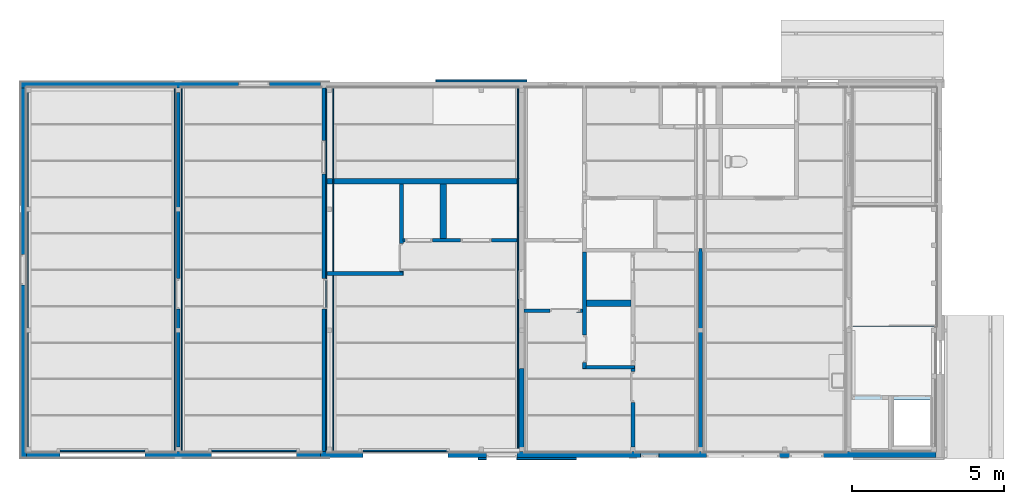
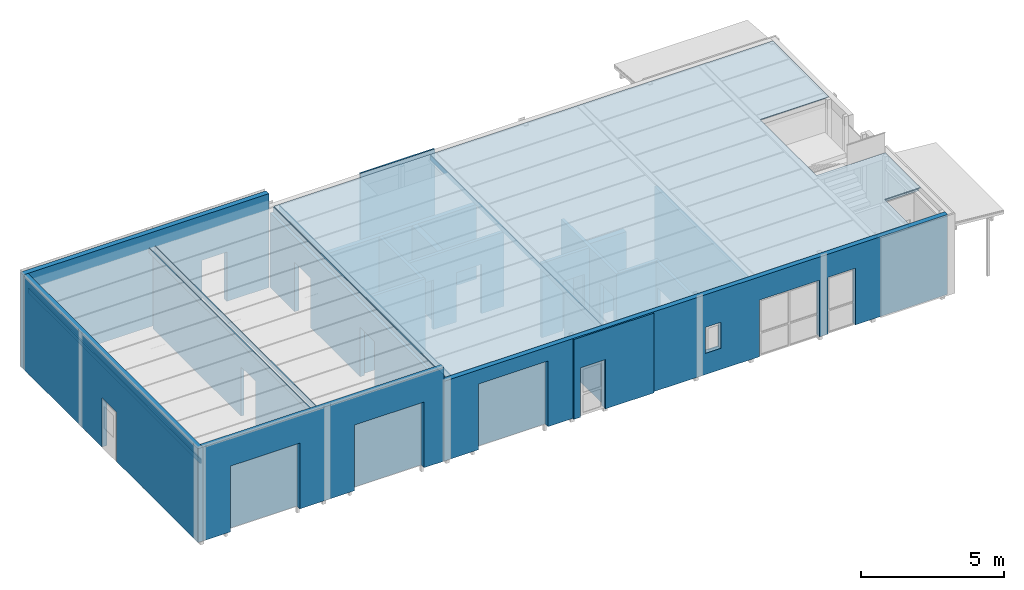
# One storey, part 2 of 45: 29 walls, 2 slabs, 20 openings.
"""IFC2X3 building model written with IfcOpenShell, lengths in millimetres."""

from ifc_helpers import new_model, entity, si_unit, converted_unit, frame, frame_2d, origin, origin_with_axes, place, context, subcontext, project, spatial, polyline, rectangle, outline, extrude, material, layer, layer_set, layer_usage, element, save


model = new_model("IFC2X3")

# Units and contexts
model_context = context("Model", 3, precision=1e-05, world=origin())
plan_context = context("Plan", 3, precision=1e-05, world=origin())
body_context = subcontext(model_context, "Body", "Model", "MODEL_VIEW")
ifc_project = project(units=[si_unit("LENGTHUNIT", "METRE", prefix="MILLI"), converted_unit("PLANEANGLEUNIT", "DEGREE", entity("IfcPlaneAngleMeasure", 0.0174532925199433), si_unit("PLANEANGLEUNIT", "RADIAN"), dimensions=[0, 0, 0, 0, 0, 0, 0]), si_unit("AREAUNIT", "SQUARE_METRE"), si_unit("VOLUMEUNIT", "CUBIC_METRE")], contexts=[model_context, plan_context])

# Building, storey
building_placement = place(None, origin())
building = spatial("IfcBuilding", under=ifc_project, at=building_placement, Name="HEKF Administrasjonbygg", CompositionType="ELEMENT")
storey_placement = place(building_placement, frame((0.0, 0.0, 6500.0), z_axis=(0.0, 0.0, 1.0), x_axis=(1.0, 0.0, 0.0)))
storey = spatial("IfcBuildingStorey", under=building, at=storey_placement, Name="Plan 1", CompositionType="ELEMENT", Elevation=6500.0)

# Slab
ifc_material_1 = material(Name="Betong")
ifc_layer_1 = layer(ifc_material_1, 200.0)
ifc_layer_set_1 = layer_set([ifc_layer_1])
ifc_layer_usage_1 = layer_usage(ifc_layer_set_1, "AXIS3", "POSITIVE", 0.0)
slab_1_placement = place(storey_placement, frame((27260.53680645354, -11999.99999999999, 3170.0), z_axis=(0.0, 0.0, 1.0), x_axis=(1.0, 0.0, 0.0)))
element("IfcSlab", 1, at=slab_1_placement, inside=storey, material=ifc_layer_usage_1, PredefinedType="FLOOR", context=body_context, shape_type="SweptSolid", body=[
    extrude(outline(polyline([(0.0, 4.547473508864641e-11), (1289.463193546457, 0.0), (1289.463193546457, 1849.999999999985), (2739.463193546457, 1849.999999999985), (2739.463193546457, 4149.999999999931), (0.0, 4149.999999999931), (0.0, 4.547473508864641e-11)])), origin_with_axes(), (0.0, 0.0, 1.0), 200.0),
])

# Slab, opening
ifc_material_2 = material(Name="Flyt golv")
ifc_layer_2 = layer(ifc_material_2, 30.0)
ifc_layer_set_2 = layer_set([ifc_layer_2])
ifc_layer_usage_2 = layer_usage(ifc_layer_set_2, "AXIS3", "POSITIVE", 0.0)
slab_2_placement = place(storey_placement, frame((9900.0, -12000.0, 3370.0), z_axis=(0.0, 0.0, 1.0), x_axis=(1.0, 0.0, 0.0)))
slab_2 = element("IfcSlab", 2, at=slab_2_placement, inside=storey, material=ifc_layer_usage_2, PredefinedType="FLOOR", context=body_context, shape_type="SweptSolid", body=[
    extrude(outline(polyline([(20100.0, 1700.000000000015), (20100.0, 12000.0), (0.0, 12000.0), (0.0, 0.0), (18650.0, 0.0), (18650.0, 1700.000000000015), (20100.0, 1700.000000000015)])), origin_with_axes(), (0.0, 0.0, 1.0), 30.0),
])
opening_1_placement = place(slab_2_placement, frame((20175.53680645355, 4149.999999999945, 0.0), z_axis=(0.0, 0.0, 1.0), x_axis=(1.0, 0.0, 0.0)))
element("IfcOpeningElement", 3, at=opening_1_placement, cuts=slab_2, Name="Slab Opening", ObjectType="Opening", context=body_context, shape_type="SweptSolid", body=[
    extrude(rectangle(XDim=3925.000000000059, YDim=2850.0, at=frame_2d((-1425.000000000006, 1962.500000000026), x_axis=(-2.780620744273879e-15, 1.0))), origin_with_axes(), (0.0, 0.0, 1.0), 30.0),
])

# Wall, opening
ifc_material_3 = material(Name="Paroc 200")
ifc_layer_3 = layer(ifc_material_3, 200.0)
ifc_layer_set_3 = layer_set([ifc_layer_3])
ifc_layer_usage_3 = layer_usage(ifc_layer_set_3, "AXIS2", "POSITIVE", 0.0)
wall_1_placement = place(storey_placement, frame((-5.57823417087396e-12, -12200.0, 0.0), z_axis=(0.0, 0.0, 1.0), x_axis=(6.063298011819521e-16, 1.0, 0.0)))
wall_1 = element("IfcWallStandardCase", 4, at=wall_1_placement, inside=storey, material=ifc_layer_usage_3, context=body_context, shape_type="SweptSolid", body=[
    extrude(rectangle(XDim=12200.0, YDim=200.0, at=frame_2d((6100.0, 100.0), x_axis=(1.0, 0.0))), origin_with_axes(), (0.0, 0.0, 1.0), 4000.0),
])
opening_2_placement = place(wall_1_placement, frame((5695.0, 1.211690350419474e-27, 0.0), z_axis=(0.0, 1.0, 0.0), x_axis=(0.0, 0.0, 1.0)))
element("IfcOpeningElement", 5, at=opening_2_placement, cuts=wall_1, Name="D001", ObjectType="Opening", context=body_context, shape_type="SweptSolid", body=[
    extrude(rectangle(XDim=2100.0, YDim=1010.0, at=frame_2d((1050.0, 505.0), x_axis=(1.0, 0.0))), origin_with_axes(), (0.0, 0.0, 1.0), 200.0),
])

ifc_material_4 = material(Name="Paroc 200")
ifc_layer_4 = layer(ifc_material_4, 200.0)
ifc_layer_set_4 = layer_set([ifc_layer_4])
ifc_layer_usage_4 = layer_usage(ifc_layer_set_4, "AXIS2", "POSITIVE", 0.0)
wall_2_placement = place(storey_placement, frame((-199.9999999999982, 0.0, 0.0), z_axis=(0.0, 0.0, 1.0), x_axis=(1.0, 0.0, 0.0)))
wall_2 = element("IfcWallStandardCase", 6, at=wall_2_placement, inside=storey, material=ifc_layer_usage_4, context=body_context, shape_type="SweptSolid", body=[
    extrude(rectangle(XDim=9899.999999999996, YDim=200.0, at=frame_2d((4949.999999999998, 100.0), x_axis=(1.0, 0.0))), origin_with_axes(), (0.0, 0.0, 1.0), 4000.0),
])
opening_3_placement = place(wall_2_placement, frame((7194.999999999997, 0.0, 0.0), z_axis=(0.0, 1.0, 0.0), x_axis=(0.0, 0.0, 1.0)))
element("IfcOpeningElement", 7, at=opening_3_placement, cuts=wall_2, Name="D005", ObjectType="Opening", context=body_context, shape_type="SweptSolid", body=[
    extrude(rectangle(XDim=2100.0, YDim=1010.0, at=frame_2d((1050.0, 505.0), x_axis=(1.0, 0.0))), origin_with_axes(), (0.0, 0.0, 1.0), 200.0),
])

# Wall, openings
ifc_material_5 = material(Name="Paroc 200")
ifc_layer_5 = layer(ifc_material_5, 200.0)
ifc_layer_set_5 = layer_set([ifc_layer_5])
ifc_layer_usage_5 = layer_usage(ifc_layer_set_5, "AXIS2", "POSITIVE", 0.0)
wall_3_placement = place(storey_placement, frame((9699.999999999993, -12000.0, 0.0), z_axis=(0.0, 0.0, 1.0), x_axis=(-1.0, 0.0, 0.0)))
wall_3 = element("IfcWallStandardCase", 8, at=wall_3_placement, inside=storey, material=ifc_layer_usage_5, context=body_context, shape_type="SweptSolid", body=[
    extrude(rectangle(XDim=9699.999999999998, YDim=200.0, at=frame_2d((4849.999999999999, 100.0), x_axis=(1.0, 0.0))), origin_with_axes(), (0.0, 0.0, 1.0), 4000.0),
])
opening_4_placement = place(wall_3_placement, frame((5799.999999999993, 0.0, 0.0), z_axis=(0.0, 1.0, 0.0), x_axis=(0.0, 0.0, 1.0)))
element("IfcOpeningElement", 9, at=opening_4_placement, cuts=wall_3, Name="Por01", ObjectType="Opening", context=body_context, shape_type="SweptSolid", body=[
    extrude(rectangle(XDim=2799.999999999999, YDim=2800.0, at=frame_2d((1400.0, 1400.0), x_axis=(1.0, 0.0))), origin_with_axes(), (0.0, 0.0, 1.0), 200.0),
])
opening_5_placement = place(wall_3_placement, frame((799.9999999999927, 0.0, 0.0), z_axis=(0.0, 1.0, 0.0), x_axis=(0.0, 0.0, 1.0)))
element("IfcOpeningElement", 10, at=opening_5_placement, cuts=wall_3, Name="Port02", ObjectType="Opening", context=body_context, shape_type="SweptSolid", body=[
    extrude(rectangle(XDim=2800.0, YDim=2800.000000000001, at=frame_2d((1400.0, 1400.000000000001), x_axis=(1.0, 0.0))), origin_with_axes(), (0.0, 0.0, 1.0), 200.0),
])

# Wall, opening
ifc_material_6 = material(Name="Lekter")
ifc_layer_6 = layer(ifc_material_6, 46.0)
ifc_material_7 = material(Name="Kledning")
ifc_layer_7 = layer(ifc_material_7, 19.0)
ifc_layer_set_6 = layer_set([ifc_layer_6, ifc_layer_7])
ifc_layer_usage_6 = layer_usage(ifc_layer_set_6, "AXIS2", "POSITIVE", 0.0)
wall_4_placement = place(storey_placement, frame((18130.0, -12200.0, 0.0), z_axis=(0.0, 0.0, 1.0), x_axis=(-1.0, 0.0, 0.0)))
wall_4 = element("IfcWallStandardCase", 11, at=wall_4_placement, inside=storey, material=ifc_layer_usage_6, context=body_context, shape_type="SweptSolid", body=[
    extrude(rectangle(XDim=3230.000000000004, YDim=65.0, at=frame_2d((1615.000000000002, 32.5), x_axis=(1.0, 0.0))), origin_with_axes(), (0.0, 0.0, 1.0), 3400.0),
])
opening_6_placement = place(wall_4_placement, frame((1957.408746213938, 0.0, 0.0), z_axis=(0.0, 1.0, 0.0), x_axis=(0.0, 0.0, 1.0)))
element("IfcOpeningElement", 12, at=opening_6_placement, cuts=wall_4, Name="Door opening", ObjectType="Opening", context=body_context, shape_type="SweptSolid", body=[
    extrude(rectangle(XDim=2100.0, YDim=1010.0, at=frame_2d((1050.0, 505.0), x_axis=(1.0, 0.0))), origin_with_axes(), (0.0, 0.0, 1.0), 65.0),
])

# Walls
ifc_material_8 = material(Name="Lekter")
ifc_layer_8 = layer(ifc_material_8, 46.0)
ifc_material_9 = material(Name="Kledning")
ifc_layer_9 = layer(ifc_material_9, 19.0)
ifc_layer_set_7 = layer_set([ifc_layer_8, ifc_layer_9])
ifc_layer_usage_7 = layer_usage(ifc_layer_set_7, "AXIS2", "POSITIVE", 0.0)
wall_5_placement = place(storey_placement, frame((13500.0, 200.0, 0.0), z_axis=(0.0, 0.0, 1.0), x_axis=(1.0, 0.0, 0.0)))
element("IfcWallStandardCase", 13, at=wall_5_placement, inside=storey, material=ifc_layer_usage_7, context=body_context, shape_type="SweptSolid", body=[
    extrude(rectangle(XDim=3000.0, YDim=65.0, at=frame_2d((1500.0, 32.5), x_axis=(1.0, 0.0))), origin_with_axes(), (0.0, 0.0, 1.0), 3400.0),
])
ifc_material_10 = material(Name="Port")
ifc_layer_10 = layer(ifc_material_10, 50.0)
ifc_layer_set_8 = layer_set([ifc_layer_10])
ifc_layer_usage_8 = layer_usage(ifc_layer_set_8, "AXIS2", "POSITIVE", 0.0)
wall_6_placement = place(storey_placement, frame((1100.0, -12000.0, 0.0), z_axis=(0.0, 0.0, 1.0), x_axis=(1.0, 0.0, 0.0)))
element("IfcWallStandardCase", 14, at=wall_6_placement, inside=storey, material=ifc_layer_usage_8, Name="Port01", context=body_context, shape_type="SweptSolid", body=[
    extrude(rectangle(XDim=2800.0, YDim=50.0, at=frame_2d((1400.0, 25.0), x_axis=(1.0, 0.0))), origin_with_axes(), (0.0, 0.0, 1.0), 2900.0),
])
ifc_material_11 = material(Name="Port")
ifc_layer_11 = layer(ifc_material_11, 50.0)
ifc_layer_set_9 = layer_set([ifc_layer_11])
ifc_layer_usage_9 = layer_usage(ifc_layer_set_9, "AXIS2", "POSITIVE", 0.0)
wall_7_placement = place(storey_placement, frame((6099.999999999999, -12000.0, 0.0), z_axis=(0.0, 0.0, 1.0), x_axis=(1.0, 0.0, 0.0)))
element("IfcWallStandardCase", 15, at=wall_7_placement, inside=storey, material=ifc_layer_usage_9, Name="Port01", context=body_context, shape_type="SweptSolid", body=[
    extrude(rectangle(XDim=2800.000000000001, YDim=50.0, at=frame_2d((1400.000000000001, 25.0), x_axis=(1.0, 0.0))), origin_with_axes(), (0.0, 0.0, 1.0), 2900.0),
])

# Wall, openings
ifc_material_12 = material(Name="Paroc 200")
ifc_layer_12 = layer(ifc_material_12, 200.0)
ifc_layer_set_10 = layer_set([ifc_layer_12])
ifc_layer_usage_10 = layer_usage(ifc_layer_set_10, "AXIS2", "POSITIVE", 0.0)
wall_8_placement = place(storey_placement, frame((30000.0, -12000.0, 0.0), z_axis=(0.0, 0.0, 1.0), x_axis=(-1.0, 8.960538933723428e-17, 0.0)))
wall_8 = element("IfcWallStandardCase", 16, at=wall_8_placement, inside=storey, material=ifc_layer_usage_10, context=body_context, shape_type="SweptSolid", body=[
    extrude(rectangle(XDim=20300.00000000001, YDim=200.0, at=frame_2d((10150.0, 100.0), x_axis=(1.0, 0.0))), origin_with_axes(), (0.0, 0.0, 1.0), 3400.0),
])
opening_7_placement = place(wall_8_placement, frame((3720.0, 0.0, 0.0), z_axis=(0.0, 1.0, 0.0), x_axis=(0.0, 0.0, 1.0)))
element("IfcOpeningElement", 17, at=opening_7_placement, cuts=wall_8, Name="V003", ObjectType="Opening", context=body_context, shape_type="SweptSolid", body=[
    extrude(rectangle(XDim=2410.0, YDim=1110.0, at=frame_2d((1205.0, 555.0), x_axis=(1.0, 0.0))), origin_with_axes(), (0.0, 0.0, 1.0), 200.0),
])
opening_8_placement = place(wall_8_placement, frame((9140.0, 0.0, 900.0), z_axis=(0.0, 1.0, 0.0), x_axis=(0.0, 0.0, 1.0)))
element("IfcOpeningElement", 18, at=opening_8_placement, cuts=wall_8, Name="V001", ObjectType="Opening", context=body_context, shape_type="SweptSolid", body=[
    extrude(rectangle(XDim=1110.0, YDim=610.0, at=frame_2d((555.0, 305.0), x_axis=(1.0, 0.0))), origin_with_axes(), (0.0, 0.0, 1.0), 200.0),
])
opening_9_placement = place(wall_8_placement, frame((16100.0, -1.818989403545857e-12, 0.0), z_axis=(0.0, 1.0, 0.0), x_axis=(0.0, 0.0, 1.0)))
element("IfcOpeningElement", 19, at=opening_9_placement, cuts=wall_8, Name="Port03", ObjectType="Opening", context=body_context, shape_type="SweptSolid", body=[
    extrude(rectangle(XDim=2799.999999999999, YDim=2800.0, at=frame_2d((1400.0, 1400.0), x_axis=(1.0, 0.0))), origin_with_axes(), (0.0, 0.0, 1.0), 200.0),
])
opening_10_placement = place(wall_8_placement, frame((13827.40874621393, -1.818989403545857e-12, 0.0), z_axis=(0.0, 1.0, 0.0), x_axis=(0.0, 0.0, 1.0)))
element("IfcOpeningElement", 20, at=opening_10_placement, cuts=wall_8, Name="D002", ObjectType="Opening", context=body_context, shape_type="SweptSolid", body=[
    extrude(rectangle(XDim=2100.0, YDim=1010.0, at=frame_2d((1050.0, 505.0), x_axis=(1.0, 0.0))), origin_with_axes(), (0.0, 0.0, 1.0), 200.0),
])
opening_11_placement = place(wall_8_placement, frame((5170.0, 0.0, 0.0), z_axis=(0.0, 1.0, 0.0), x_axis=(0.0, 0.0, 1.0)))
element("IfcOpeningElement", 21, at=opening_11_placement, cuts=wall_8, Name="V002", ObjectType="Opening", context=body_context, shape_type="SweptSolid", body=[
    extrude(rectangle(XDim=2410.0, YDim=2410.0, at=frame_2d((1205.0, 1205.0), x_axis=(1.0, 0.0))), origin_with_axes(), (0.0, 0.0, 1.0), 200.0),
])

# Wall
ifc_material_13 = material(Name="Port")
ifc_layer_13 = layer(ifc_material_13, 50.0)
ifc_layer_set_11 = layer_set([ifc_layer_13])
ifc_layer_usage_11 = layer_usage(ifc_layer_set_11, "AXIS2", "POSITIVE", 0.0)
wall_9_placement = place(storey_placement, frame((11100.0, -12000.0, 0.0), z_axis=(0.0, 0.0, 1.0), x_axis=(1.0, 0.0, 0.0)))
element("IfcWallStandardCase", 22, at=wall_9_placement, inside=storey, material=ifc_layer_usage_11, Name="Port01", context=body_context, shape_type="SweptSolid", body=[
    extrude(rectangle(XDim=2800.000000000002, YDim=50.0, at=frame_2d((1400.000000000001, 25.0), x_axis=(1.0, 0.0))), origin_with_axes(), (0.0, 0.0, 1.0), 2900.0),
])

# Wall, opening
ifc_material_14 = material(Name="gips")
ifc_layer_14 = layer(ifc_material_14, 13.0)
ifc_material_15 = material(Name="riegel stål 100")
ifc_layer_15 = layer(ifc_material_15, 100.0)
ifc_material_16 = material(Name="gips")
ifc_layer_16 = layer(ifc_material_16, 13.0)
ifc_layer_set_12 = layer_set([ifc_layer_14, ifc_layer_15, ifc_layer_16])
ifc_layer_usage_12 = layer_usage(ifc_layer_set_12, "AXIS2", "POSITIVE", 0.0)
wall_10_placement = place(storey_placement, frame((4937.0, -149.9999999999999, 0.0), z_axis=(0.0, 0.0, 1.0), x_axis=(0.0, -1.0, 0.0)))
wall_10 = element("IfcWallStandardCase", 23, at=wall_10_placement, inside=storey, material=ifc_layer_usage_12, context=body_context, shape_type="SweptSolid", body=[
    extrude(rectangle(XDim=11700.0, YDim=126.0, at=frame_2d((5850.0, 63.0), x_axis=(1.0, 0.0))), origin_with_axes(), (0.0, 0.0, 1.0), 3170.0),
])
opening_12_placement = place(wall_10_placement, frame((6141.263561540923, 0.0, 0.0), z_axis=(0.0, 1.0, 0.0), x_axis=(0.0, 0.0, 1.0)))
element("IfcOpeningElement", 24, at=opening_12_placement, cuts=wall_10, Name="D006", ObjectType="Opening", context=body_context, shape_type="SweptSolid", body=[
    extrude(rectangle(XDim=2100.0, YDim=1010.0, at=frame_2d((1050.0, 505.0), x_axis=(1.0, 0.0))), origin_with_axes(), (0.0, 0.0, 1.0), 126.0),
])

# Walls
ifc_material_17 = material(Name="gips")
ifc_layer_17 = layer(ifc_material_17, 13.0)
ifc_material_18 = material(Name="riegel stål 100")
ifc_layer_18 = layer(ifc_material_18, 150.0)
ifc_material_19 = material(Name="gips")
ifc_layer_19 = layer(ifc_material_19, 13.0)
ifc_layer_set_13 = layer_set([ifc_layer_17, ifc_layer_18, ifc_layer_19])
ifc_layer_usage_13 = layer_usage(ifc_layer_set_13, "AXIS2", "POSITIVE", 0.0)
wall_11_placement = place(storey_placement, frame((16237.0, -9276.00000000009, 0.0), z_axis=(0.0, 0.0, 1.0), x_axis=(0.0, -1.0, 0.0)))
element("IfcWallStandardCase", 25, at=wall_11_placement, inside=storey, material=ifc_layer_usage_13, context=body_context, shape_type="SweptSolid", body=[
    extrude(outline(polyline([(-13.0, 176.0), (-13.0, 13.0), (0.0, 13.0), (0.0, 0.0), (2723.999999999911, 0.0), (2723.999999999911, 176.0), (-13.0, 176.0)])), origin_with_axes(), (0.0, 0.0, 1.0), 3170.0),
])
ifc_material_20 = material(Name="gips")
ifc_layer_20 = layer(ifc_material_20, 13.0)
ifc_material_21 = material(Name="riegel stål 100")
ifc_layer_21 = layer(ifc_material_21, 150.0)
ifc_material_22 = material(Name="gips")
ifc_layer_22 = layer(ifc_material_22, 13.0)
ifc_layer_set_14 = layer_set([ifc_layer_20, ifc_layer_21, ifc_layer_22])
ifc_layer_usage_14 = layer_usage(ifc_layer_set_14, "AXIS2", "POSITIVE", -13.0)
wall_12_placement = place(storey_placement, frame((16250.0, -2987.0, 0.0), z_axis=(0.0, 0.0, 1.0), x_axis=(-1.0, 0.0, 0.0)))
element("IfcWallStandardCase", 26, at=wall_12_placement, inside=storey, material=ifc_layer_usage_14, context=body_context, shape_type="SweptSolid", body=[
    extrude(outline(polyline([(13.0, 176.0), (13.0, 13.0), (0.0, 13.0), (0.0, 0.0), (6336.999999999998, 0.0), (6336.999999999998, 176.0), (13.0, 176.0)])), origin_with_axes(), (0.0, 0.0, 1.0), 3170.0),
])
ifc_material_23 = material(Name="gips")
ifc_layer_23 = layer(ifc_material_23, 13.0)
ifc_material_24 = material(Name="bindingsverk 198")
ifc_layer_24 = layer(ifc_material_24, 198.0)
ifc_material_25 = material(Name="gips")
ifc_layer_25 = layer(ifc_material_25, 13.0)
ifc_layer_set_15 = layer_set([ifc_layer_23, ifc_layer_24, ifc_layer_25])
ifc_layer_usage_15 = layer_usage(ifc_layer_set_15, "AXIS2", "POSITIVE", -13.0)
wall_13_placement = place(storey_placement, frame((13632.83620340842, -3163.0, 0.0), z_axis=(0.0, 0.0, 1.0), x_axis=(0.0, -1.0, 0.0)))
element("IfcWallStandardCase", 27, at=wall_13_placement, inside=storey, material=ifc_layer_usage_15, context=body_context, shape_type="SweptSolid", body=[
    extrude(rectangle(XDim=1797.999999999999, YDim=224.0, at=frame_2d((898.9999999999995, 112.0), x_axis=(1.0, 0.0))), origin_with_axes(), (0.0, 0.0, 1.0), 3170.0),
])

# Wall, openings
ifc_material_26 = material(Name="gips")
ifc_layer_26 = layer(ifc_material_26, 13.00000000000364)
ifc_material_27 = material(Name="riegel stål 100")
ifc_layer_27 = layer(ifc_material_27, 150.0)
ifc_material_28 = material(Name="gips")
ifc_layer_28 = layer(ifc_material_28, 12.99999999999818)
ifc_layer_set_16 = layer_set([ifc_layer_26, ifc_layer_27, ifc_layer_28])
ifc_layer_usage_16 = layer_usage(ifc_layer_set_16, "AXIS2", "POSITIVE", -13.0)
wall_14_placement = place(storey_placement, frame((9913.0, -11800.0, 0.0), z_axis=(0.0, 0.0, 1.0), x_axis=(1.541516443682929e-16, 1.0, 0.0)))
wall_14 = element("IfcWallStandardCase", 28, at=wall_14_placement, inside=storey, material=ifc_layer_usage_16, context=body_context, shape_type="SweptSolid", body=[
    extrude(outline(polyline([(-200.0, 175.9999999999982), (-200.0, 12.99999999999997), (-2.003971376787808e-15, 13.0), (0.0, 0.0), (11800.0, 0.0), (11800.0, 175.9999999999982), (-200.0, 175.9999999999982)])), origin_with_axes(), (0.0, 0.0, 1.0), 3170.0),
])
opening_13_placement = place(wall_14_placement, frame((4498.736438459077, 0.0, 0.0), z_axis=(0.0, 1.0, 0.0), x_axis=(0.0, 0.0, 1.0)))
element("IfcOpeningElement", 29, at=opening_13_placement, cuts=wall_14, Name="D008", ObjectType="Opening", context=body_context, shape_type="SweptSolid", body=[
    extrude(rectangle(XDim=2100.0, YDim=1010.0, at=frame_2d((1050.0, 505.0), x_axis=(1.0, 0.0))), origin_with_axes(), (0.0, 0.0, 1.0), 175.9999999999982),
])
opening_14_placement = place(wall_14_placement, frame((8963.0, -3.637978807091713e-12, 0.0), z_axis=(0.0, 1.0, 0.0), x_axis=(0.0, 0.0, 1.0)))
element("IfcOpeningElement", 30, at=opening_14_placement, cuts=wall_14, Name="Door opening", ObjectType="Opening", context=body_context, shape_type="SweptSolid", body=[
    extrude(rectangle(XDim=2100.0, YDim=1110.0, at=frame_2d((1050.0, 555.0), x_axis=(1.0, 0.0))), origin_with_axes(), (0.0, 0.0, 1.0), 175.9999999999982),
])

# Wall, opening
ifc_material_29 = material(Name="gips")
ifc_layer_29 = layer(ifc_material_29, 13.0)
ifc_material_30 = material(Name="riegel stål 100")
ifc_layer_30 = layer(ifc_material_30, 100.0)
ifc_material_31 = material(Name="gips")
ifc_layer_31 = layer(ifc_material_31, 13.0)
ifc_layer_set_17 = layer_set([ifc_layer_29, ifc_layer_30, ifc_layer_31])
ifc_layer_usage_17 = layer_usage(ifc_layer_set_17, "AXIS2", "POSITIVE", 0.0)
wall_15_placement = place(storey_placement, frame((12301.88604435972, -3163.0, 0.0), z_axis=(0.0, 0.0, 1.0), x_axis=(0.0, -1.0, 0.0)))
wall_15 = element("IfcWallStandardCase", 31, at=wall_15_placement, inside=storey, material=ifc_layer_usage_17, context=body_context, shape_type="SweptSolid", body=[
    extrude(outline(polyline([(0.0, 0.0), (2897.999999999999, 0.0), (2897.999999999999, 13.0), (2910.999999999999, 13.0), (2910.999999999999, 113.0), (3010.999999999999, 113.0), (3010.999999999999, 126.0), (1910.999999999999, 126.0), (1910.999999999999, 113.0), (1810.999999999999, 113.0), (1810.999999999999, 126.0), (0.0, 126.0), (0.0, 0.0)])), origin_with_axes(), (0.0, 0.0, 1.0), 3170.0),
])
opening_15_placement = place(wall_15_placement, frame((1963.380815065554, 0.0, 0.0), z_axis=(0.0, 1.0, 0.0), x_axis=(0.0, 0.0, 1.0)))
element("IfcOpeningElement", 32, at=opening_15_placement, cuts=wall_15, Name="D009", ObjectType="Opening", context=body_context, shape_type="SweptSolid", body=[
    extrude(rectangle(XDim=2110.0, YDim=910.0, at=frame_2d((1055.0, 455.0), x_axis=(1.0, 0.0))), origin_with_axes(), (0.0, 0.0, 1.0), 126.0),
])

# Wall, openings
ifc_material_32 = material(Name="gips")
ifc_layer_32 = layer(ifc_material_32, 13.0)
ifc_material_33 = material(Name="riegel stål 100")
ifc_layer_33 = layer(ifc_material_33, 100.0)
ifc_material_34 = material(Name="gips")
ifc_layer_34 = layer(ifc_material_34, 13.0)
ifc_layer_set_18 = layer_set([ifc_layer_32, ifc_layer_33, ifc_layer_34])
ifc_layer_usage_18 = layer_usage(ifc_layer_set_18, "AXIS2", "POSITIVE", 0.0)
wall_16_placement = place(storey_placement, frame((18337.0, -4961.000000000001, 0.0), z_axis=(0.0, 0.0, 1.0), x_axis=(-1.0, 3.078277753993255e-16, 0.0)))
wall_16 = element("IfcWallStandardCase", 33, at=wall_16_placement, inside=storey, material=ifc_layer_usage_18, context=body_context, shape_type="SweptSolid", body=[
    extrude(outline(polyline([(2100.0, -2.630563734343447e-13), (5909.113955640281, 0.0), (5909.113955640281, 13.0), (5922.113955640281, 13.0), (5922.113955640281, 113.0), (5909.113955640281, 113.0), (5909.113955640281, 126.0), (2100.0, 125.9999999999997), (2100.0, -2.630563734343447e-13)])), origin_with_axes(), (0.0, 0.0, 1.0), 3170.0),
])
opening_16_placement = place(wall_16_placement, frame((3009.560025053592, -9.094947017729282e-13, 0.0), z_axis=(0.0, 1.0, 0.0), x_axis=(0.0, 0.0, 1.0)))
element("IfcOpeningElement", 34, at=opening_16_placement, cuts=wall_16, Name="garasjeport med glassfelter:45x6", ObjectType="Opening", context=body_context, shape_type="SweptSolid", body=[
    extrude(rectangle(XDim=2100.0, YDim=1010.0, at=frame_2d((1050.0, 505.0), x_axis=(1.0, 0.0))), origin_with_axes(), (0.0, 0.0, 1.0), 126.0),
])
opening_17_placement = place(wall_16_placement, frame((4948.076674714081, -1.818989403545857e-12, 0.0), z_axis=(0.0, 1.0, 0.0), x_axis=(0.0, 0.0, 1.0)))
element("IfcOpeningElement", 35, at=opening_17_placement, cuts=wall_16, Name="D010", ObjectType="Opening", context=body_context, shape_type="SweptSolid", body=[
    extrude(rectangle(XDim=2110.0, YDim=910.0, at=frame_2d((1055.0, 455.0), x_axis=(1.0, 0.0))), origin_with_axes(), (0.0, 0.0, 1.0), 126.0),
])

# Wall
ifc_material_35 = material(Name="gips")
ifc_layer_35 = layer(ifc_material_35, 13.0)
ifc_material_36 = material(Name="riegel stål 100")
ifc_layer_36 = layer(ifc_material_36, 100.0)
ifc_material_37 = material(Name="gips")
ifc_layer_37 = layer(ifc_material_37, 13.0)
ifc_layer_set_19 = layer_set([ifc_layer_35, ifc_layer_36, ifc_layer_37])
ifc_layer_usage_19 = layer_usage(ifc_layer_set_19, "AXIS2", "POSITIVE", 0.0)
wall_17_placement = place(storey_placement, frame((9913.0, -6186.999999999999, 0.0), z_axis=(0.0, 0.0, 1.0), x_axis=(0.9999999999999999, 0.0, 0.0)))
element("IfcWallStandardCase", 36, at=wall_17_placement, inside=storey, material=ifc_layer_usage_19, context=body_context, shape_type="SweptSolid", body=[
    extrude(outline(polyline([(0.0, 0.0), (2514.886044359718, 0.0), (2514.886044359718, 13.0), (2501.886044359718, 13.0), (2501.886044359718, 113.0), (2401.886044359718, 113.0), (2401.886044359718, 126.0), (0.0, 126.0), (0.0, 0.0)])), origin_with_axes(), (0.0, 0.0, 1.0), 3170.0),
])

# Wall, opening
ifc_material_38 = material(Name="gips")
ifc_layer_38 = layer(ifc_material_38, 14.41362522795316)
ifc_material_39 = material(Name="riegel stål 100")
ifc_layer_39 = layer(ifc_material_39, 99.68287760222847)
ifc_material_40 = material(Name="gips")
ifc_layer_40 = layer(ifc_material_40, 13.03688364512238)
ifc_layer_set_20 = layer_set([ifc_layer_38, ifc_layer_39, ifc_layer_40])
ifc_layer_usage_20 = layer_usage(ifc_layer_set_20, "AXIS2", "POSITIVE", -13.0)
wall_18_placement = place(storey_placement, frame((16413.0, -7412.999999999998, 0.0), z_axis=(0.0, 0.0, 1.0), x_axis=(1.0, 0.0, 0.0)))
wall_18 = element("IfcWallStandardCase", 37, at=wall_18_placement, inside=storey, material=ifc_layer_usage_20, context=body_context, shape_type="SweptSolid", body=[
    extrude(outline(polyline([(1924.0, 127.4136252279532), (815.1164036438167, 127.4136252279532), (0.0, 126.0), (0.0, 0.0), (1924.0, 0.0), (1924.0, 127.4136252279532)]), holes=[polyline([(815.1164036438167, 114.4136252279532), (1725.116403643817, 114.4136252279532), (1757.765161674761, 114.092363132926), (1924.0, 113.9407350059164), (815.1164036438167, 114.4136252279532)])]), origin_with_axes(), (0.0, 0.0, 1.0), 3170.0),
])
opening_18_placement = place(wall_18_placement, frame((845.2425021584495, 0.0, 0.0), z_axis=(0.0, 1.0, 0.0), x_axis=(0.0, 0.0, 1.0)))
element("IfcOpeningElement", 38, at=opening_18_placement, cuts=wall_18, Name="D013", ObjectType="Opening", context=body_context, shape_type="SweptSolid", body=[
    extrude(rectangle(XDim=2100.0, YDim=879.8739014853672, at=frame_2d((1050.0, 439.9369507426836), x_axis=(1.0, 0.0))), origin_with_axes(), (0.0, 0.0, 1.0), 14.41362522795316),
    extrude(rectangle(XDim=2100.0, YDim=1010.000091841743, at=frame_2d((1050.0, 505.0000459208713), x_axis=(1.0, 0.0))), frame((0.0, 0.0, 14.41362522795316), z_axis=(0.0, 0.0, 1.0), x_axis=(1.0, 0.0, 0.0)), (0.0, 0.0, 1.0), 99.77182501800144),
    extrude(rectangle(XDim=2100.0, YDim=1010.0, at=frame_2d((1050.0, 505.0), x_axis=(1.0, 0.0))), frame((0.0, 0.0, 114.4136252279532), z_axis=(0.0, 0.0, 1.0), x_axis=(1.0, 0.0, 0.0)), (0.0, 0.0, 1.0), 13.0),
])

ifc_material_41 = material(Name="gips")
ifc_layer_41 = layer(ifc_material_41, 13.0)
ifc_material_42 = material(Name="riegel stål 100")
ifc_layer_42 = layer(ifc_material_42, 100.0)
ifc_material_43 = material(Name="gips")
ifc_layer_43 = layer(ifc_material_43, 13.0)
ifc_layer_set_21 = layer_set([ifc_layer_41, ifc_layer_42, ifc_layer_43])
ifc_layer_usage_21 = layer_usage(ifc_layer_set_21, "AXIS2", "POSITIVE", -13.0)
wall_19_placement = place(storey_placement, frame((20063.0, -11849.99999999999, 0.0), z_axis=(0.0, 0.0, 1.0), x_axis=(0.0, 0.9999999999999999, 0.0)))
wall_19 = element("IfcWallStandardCase", 39, at=wall_19_placement, inside=storey, material=ifc_layer_usage_21, context=body_context, shape_type="SweptSolid", body=[
    extrude(outline(polyline([(0.0, 0.0), (2686.999999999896, 0.0), (2686.999999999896, 13.0), (2586.999999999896, 13.0), (2586.999999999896, 113.0), (2573.999999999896, 113.0), (2573.999999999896, 126.0), (0.0, 126.0), (0.0, 0.0)])), origin_with_axes(), (0.0, 0.0, 1.0), 3170.0),
])
opening_19_placement = place(wall_19_placement, frame((1476.999999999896, 0.0, 0.0), z_axis=(0.0, 1.0, 0.0), x_axis=(0.0, 0.0, 1.0)))
element("IfcOpeningElement", 40, at=opening_19_placement, cuts=wall_19, Name="D016", ObjectType="Opening", context=body_context, shape_type="SweptSolid", body=[
    extrude(rectangle(XDim=2100.0, YDim=1010.0, at=frame_2d((1050.0, 505.0), x_axis=(1.0, 0.0))), origin_with_axes(), (0.0, 0.0, 1.0), 126.0),
])

# Walls
ifc_material_44 = material(Name="gips")
ifc_layer_44 = layer(ifc_material_44, 13.0)
ifc_material_45 = material(Name="riegel stål 100")
ifc_layer_45 = layer(ifc_material_45, 100.0)
ifc_material_46 = material(Name="gips")
ifc_layer_46 = layer(ifc_material_46, 13.0)
ifc_layer_set_22 = layer_set([ifc_layer_44, ifc_layer_45, ifc_layer_46])
ifc_layer_usage_22 = layer_usage(ifc_layer_set_22, "AXIS2", "POSITIVE", -13.0)
wall_20_placement = place(storey_placement, frame((20063.0, -9150.00000000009, 0.0), z_axis=(0.0, 0.0, 1.0), x_axis=(-1.0, 0.0, 0.0)))
element("IfcWallStandardCase", 41, at=wall_20_placement, inside=storey, material=ifc_layer_usage_22, context=body_context, shape_type="SweptSolid", body=[
    extrude(outline(polyline([(0.0, 0.0), (1600.0, 0.0), (1600.0, 13.0), (1613.0, 13.0), (1613.0, 113.0), (1713.0, 113.0), (1713.0, 126.0), (113.0, 126.0), (113.0, 113.0), (13.0, 113.0), (13.0, 13.0), (0.0, 13.0), (0.0, 0.0)])), origin_with_axes(), (0.0, 0.0, 1.0), 3170.0),
])
ifc_material_47 = material(Name="gips")
ifc_layer_47 = layer(ifc_material_47, 13.0)
ifc_material_48 = material(Name="bindingsverk 198")
ifc_layer_48 = layer(ifc_material_48, 198.0)
ifc_material_49 = material(Name="gips")
ifc_layer_49 = layer(ifc_material_49, 13.0)
ifc_layer_set_23 = layer_set([ifc_layer_47, ifc_layer_48, ifc_layer_49])
ifc_layer_usage_23 = layer_usage(ifc_layer_set_23, "AXIS2", "POSITIVE", -13.0)
wall_21_placement = place(storey_placement, frame((18463.0, -7213.000000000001, 0.0), z_axis=(0.0, 0.0, 1.0), x_axis=(0.9999999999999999, 0.0, 0.0)))
element("IfcWallStandardCase", 42, at=wall_21_placement, inside=storey, material=ifc_layer_usage_23, context=body_context, shape_type="SweptSolid", body=[
    extrude(rectangle(XDim=1474.0, YDim=224.0, at=frame_2d((737.0, 112.0), x_axis=(1.0, 0.0))), origin_with_axes(), (0.0, 0.0, 1.0), 3170.0),
])
ifc_material_50 = material(Name="gips")
ifc_layer_50 = layer(ifc_material_50, 13.0)
ifc_material_51 = material(Name="riegel stål 100")
ifc_layer_51 = layer(ifc_material_51, 100.0)
ifc_material_52 = material(Name="gips")
ifc_layer_52 = layer(ifc_material_52, 13.0)
ifc_layer_set_24 = layer_set([ifc_layer_50, ifc_layer_51, ifc_layer_52])
ifc_layer_usage_24 = layer_usage(ifc_layer_set_24, "AXIS2", "POSITIVE", 0.0)
wall_22_placement = place(storey_placement, frame((22288.26840322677, -12000.0, -9.094947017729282e-13), z_axis=(0.0, 0.0, 1.0), x_axis=(0.0, 0.9999999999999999, 0.0)))
element("IfcWallStandardCase", 43, at=wall_22_placement, inside=storey, material=ifc_layer_usage_24, context=body_context, shape_type="SweptSolid", body=[
    extrude(outline(polyline([(0.0, 0.0), (6596.000000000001, 0.0), (6596.000000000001, 13.0), (6696.000000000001, 13.0), (6696.000000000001, 113.0), (6596.000000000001, 113.0), (6596.000000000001, 126.0), (0.0, 126.0), (0.0, 0.0)])), origin_with_axes(), (0.0, 0.0, 1.0), 3170.000000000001),
])

# Wall, opening
ifc_material_53 = material(Name="gips")
ifc_layer_53 = layer(ifc_material_53, 13.0)
ifc_material_54 = material(Name="riegel stål 100")
ifc_layer_54 = layer(ifc_material_54, 100.0)
ifc_material_55 = material(Name="gips")
ifc_layer_55 = layer(ifc_material_55, 13.0)
ifc_layer_set_25 = layer_set([ifc_layer_53, ifc_layer_54, ifc_layer_55])
ifc_layer_usage_25 = layer_usage(ifc_layer_set_25, "AXIS2", "POSITIVE", 0.0)
wall_23_placement = place(storey_placement, frame((18337.0, -5417.0, 0.0), z_axis=(0.0, 0.0, 1.0), x_axis=(0.0, -0.9999999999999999, 0.0)))
wall_23 = element("IfcWallStandardCase", 44, at=wall_23_placement, inside=storey, material=ifc_layer_usage_25, context=body_context, shape_type="SweptSolid", body=[
    extrude(outline(polyline([(0.0, 0.0), (3859.000000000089, 0.0), (3859.000000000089, 13.0), (3846.000000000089, 13.0), (3846.000000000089, 113.0), (3746.000000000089, 113.0), (3746.000000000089, 126.0), (0.0, 126.0), (0.0, 0.0)])), origin_with_axes(), (0.0, 0.0, 1.0), 3170.0),
])
opening_20_placement = place(wall_23_placement, frame((2736.000000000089, 0.0, 0.0), z_axis=(0.0, 1.0, 0.0), x_axis=(0.0, 0.0, 1.0)))
element("IfcOpeningElement", 45, at=opening_20_placement, cuts=wall_23, Name="Door opening", ObjectType="Opening", context=body_context, shape_type="SweptSolid", body=[
    extrude(rectangle(XDim=2110.0, YDim=910.0, at=frame_2d((1055.0, 455.0), x_axis=(1.0, 0.0))), origin_with_axes(), (0.0, 0.0, 1.0), 126.0),
])

# Walls
ifc_material_56 = material(Name="Betong")
ifc_layer_56 = layer(ifc_material_56, 50.0)
ifc_layer_set_26 = layer_set([ifc_layer_56])
ifc_layer_usage_26 = layer_usage(ifc_layer_set_26, "AXIS2", "POSITIVE", 0.0)
wall_24_placement = place(storey_placement, frame((-4.732214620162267e-12, -7.272908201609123e-12, 3170.0), z_axis=(0.0, 0.0, 1.0), x_axis=(-6.098825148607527e-17, -1.0, 0.0)))
element("IfcWallStandardCase", 46, at=wall_24_placement, inside=storey, material=ifc_layer_usage_26, context=body_context, shape_type="SweptSolid", body=[
    extrude(rectangle(XDim=12000.0, YDim=50.0, at=frame_2d((6000.0, 25.0), x_axis=(1.0, 0.0))), origin_with_axes(), (0.0, 0.0, 1.0), 200.0),
])
ifc_material_57 = material(Name="Betong")
ifc_layer_57 = layer(ifc_material_57, 35.0)
ifc_layer_set_27 = layer_set([ifc_layer_57])
ifc_layer_usage_27 = layer_usage(ifc_layer_set_27, "AXIS2", "POSITIVE", 0.0)
wall_25_placement = place(storey_placement, frame((4865.000000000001, 0.0, 3170.0), z_axis=(0.0, 0.0, 1.0), x_axis=(-7.579122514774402e-17, -1.0, 0.0)))
element("IfcWallStandardCase", 47, at=wall_25_placement, inside=storey, material=ifc_layer_usage_27, context=body_context, shape_type="SweptSolid", body=[
    extrude(rectangle(XDim=12000.0, YDim=35.0, at=frame_2d((6000.0, 17.5), x_axis=(1.0, 0.0))), origin_with_axes(), (0.0, 0.0, 1.0), 200.0),
])
ifc_material_58 = material(Name="Betong")
ifc_layer_58 = layer(ifc_material_58, 35.0)
ifc_layer_set_28 = layer_set([ifc_layer_58])
ifc_layer_usage_28 = layer_usage(ifc_layer_set_28, "AXIS2", "POSITIVE", 0.0)
wall_26_placement = place(storey_placement, frame((5135.000000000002, -12000.0, 3170.0), z_axis=(0.0, 0.0, 1.0), x_axis=(-2.273736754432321e-16, 1.0, 0.0)))
element("IfcWallStandardCase", 48, at=wall_26_placement, inside=storey, material=ifc_layer_usage_28, context=body_context, shape_type="SweptSolid", body=[
    extrude(rectangle(XDim=12000.0, YDim=35.0, at=frame_2d((6000.0, 17.5), x_axis=(1.0, 0.0))), origin_with_axes(), (0.0, 0.0, 1.0), 200.0),
])
ifc_material_59 = material(Name="Betong")
ifc_layer_59 = layer(ifc_material_59, 35.0)
ifc_layer_set_29 = layer_set([ifc_layer_59])
ifc_layer_usage_29 = layer_usage(ifc_layer_set_29, "AXIS2", "POSITIVE", 0.0)
wall_27_placement = place(storey_placement, frame((9865.0, 0.0, 3170.0), z_axis=(0.0, 0.0, 1.0), x_axis=(0.0, -1.0, 0.0)))
element("IfcWallStandardCase", 49, at=wall_27_placement, inside=storey, material=ifc_layer_usage_29, context=body_context, shape_type="SweptSolid", body=[
    extrude(rectangle(XDim=12000.0, YDim=35.0, at=frame_2d((6000.0, 17.5), x_axis=(1.0, 0.0))), origin_with_axes(), (0.0, 0.0, 1.0), 200.0),
])
ifc_material_60 = material(Name="Betong")
ifc_layer_60 = layer(ifc_material_60, 35.0)
ifc_layer_set_30 = layer_set([ifc_layer_60])
ifc_layer_usage_30 = layer_usage(ifc_layer_set_30, "AXIS2", "POSITIVE", 0.0)
wall_28_placement = place(storey_placement, frame((10135.0, -12000.0, 3170.0), z_axis=(0.0, 0.0, 1.0), x_axis=(-1.51582450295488e-16, 1.0, 0.0)))
element("IfcWallStandardCase", 50, at=wall_28_placement, inside=storey, material=ifc_layer_usage_30, context=body_context, shape_type="SweptSolid", body=[
    extrude(rectangle(XDim=12000.0, YDim=35.0, at=frame_2d((6000.0, 17.5), x_axis=(1.0, 0.0))), origin_with_axes(), (0.0, 0.0, 1.0), 200.0),
])
ifc_material_61 = material(Name="Betong")
ifc_layer_61 = layer(ifc_material_61, 35.0)
ifc_layer_set_31 = layer_set([ifc_layer_61])
ifc_layer_usage_31 = layer_usage(ifc_layer_set_31, "AXIS2", "POSITIVE", 0.0)
wall_29_placement = place(storey_placement, frame((16190.0, 0.0, 3170.0), z_axis=(0.0, 0.0, 1.0), x_axis=(0.0, -1.0, 0.0)))
element("IfcWallStandardCase", 51, at=wall_29_placement, inside=storey, material=ifc_layer_usage_31, context=body_context, shape_type="SweptSolid", body=[
    extrude(rectangle(XDim=12000.0, YDim=35.0, at=frame_2d((6000.0, 17.5), x_axis=(1.0, 0.0))), origin_with_axes(), (0.0, 0.0, 1.0), 200.0),
])

save(model, "model.ifc")
